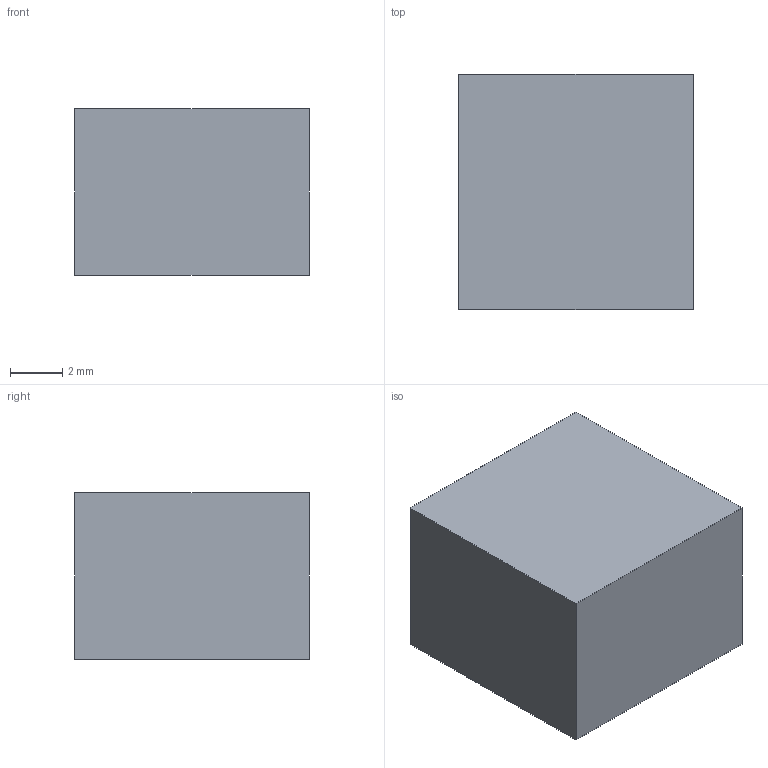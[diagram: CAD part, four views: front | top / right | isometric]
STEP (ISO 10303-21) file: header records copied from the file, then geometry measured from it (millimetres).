
FILE_DESCRIPTION(('Open CASCADE Model'),'2;1');
FILE_NAME('Open CASCADE Shape Model','2026-09-27T04:50:34',('Author'),( 'Open CASCADE'),'Open CASCADE STEP processor 7.8','Open CASCADE 7.8' ,'Unknown');
FILE_SCHEMA(('AUTOMOTIVE_DESIGN { 1 0 10303 214 1 1 1 1 }'));
Length unit declared in the file: millimetre
Products named in the file (1): Open CASCADE STEP translator 7.8 6
Bounding box: 9 x 9 x 6.4 mm (x, y, z)
Volume: 486.8 mm3; surface area: 444.6 mm2
Topology: 1 solids, 1 shells, 15 faces, 30 edges, 20 vertices
Faces by surface type: plane 12, cylinder 3
Entity records: 775 total; most frequent: CARTESIAN_POINT 168, DIRECTION 101, ORIENTED_EDGE 60, PCURVE 60, DEFINITIONAL_REPRESENTATION 60, LINE 54, VECTOR 54, EDGE_CURVE 30
